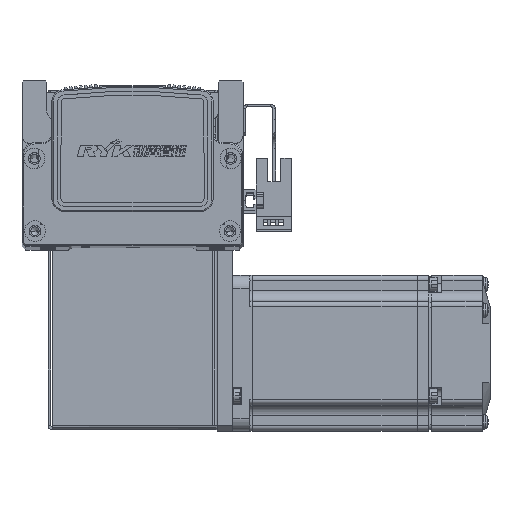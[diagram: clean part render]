
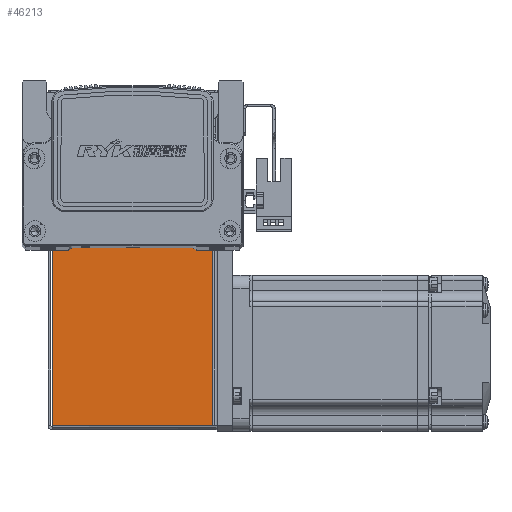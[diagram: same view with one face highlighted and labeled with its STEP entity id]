
A CAD part, top view. The second image highlights one B-rep face of the part: STEP entity #46213.
In plain terms, the highlighted planar face has unit normal (0, 0, 1).
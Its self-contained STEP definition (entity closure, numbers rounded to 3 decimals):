
#2452 = ORIENTED_EDGE ( 'NONE', *, *, #71392, .F. ) ;
#2458 = ORIENTED_EDGE ( 'NONE', *, *, #71367, .T. ) ;
#2492 = ORIENTED_EDGE ( 'NONE', *, *, #71385, .T. ) ;
#2494 = ORIENTED_EDGE ( 'NONE', *, *, #71430, .F. ) ;
#16728 = VERTEX_POINT ( 'NONE', #60256 ) ;
#16788 = VERTEX_POINT ( 'NONE', #60355 ) ;
#16891 = VERTEX_POINT ( 'NONE', #60397 ) ;
#16914 = VERTEX_POINT ( 'NONE', #60385 ) ;
#17542 = AXIS2_PLACEMENT_3D ( 'NONE', #31143, #31117, #31118 ) ;
#31117 = DIRECTION ( 'NONE',  ( 0., 0., -1. ) ) ;
#31118 = DIRECTION ( 'NONE',  ( -1., 0., 0. ) ) ;
#31122 = PLANE ( 'NONE',  #17542 ) ;
#31143 = CARTESIAN_POINT ( 'NONE',  ( 0., 0., 35. ) ) ;
#42981 = DIRECTION ( 'NONE',  ( 0., 1., 0. ) ) ;
#42995 = CARTESIAN_POINT ( 'NONE',  ( 30.763, 0.737, 35. ) ) ;
#43004 = DIRECTION ( 'NONE',  ( -1., 0., 0. ) ) ;
#43008 = DIRECTION ( 'NONE',  ( -1., 0., 0. ) ) ;
#43013 = CARTESIAN_POINT ( 'NONE',  ( 0., 72.5, 35. ) ) ;
#43019 = CARTESIAN_POINT ( 'NONE',  ( -32.5, 0.737, 35. ) ) ;
#43153 = CARTESIAN_POINT ( 'NONE',  ( -30.793, 0., 35. ) ) ;
#43154 = DIRECTION ( 'NONE',  ( 0., 1., 0. ) ) ;
#46213 = ADVANCED_FACE ( 'NONE', ( #50625 ), #31122, .F. ) ;
#47017 = LINE ( 'NONE', #43153, #47036 ) ;
#47036 = VECTOR ( 'NONE', #43154, 1000. ) ;
#48579 = LINE ( 'NONE', #42995, #48596 ) ;
#48596 = VECTOR ( 'NONE', #42981, 1000. ) ;
#48635 = LINE ( 'NONE', #43013, #48642 ) ;
#48642 = VECTOR ( 'NONE', #43004, 1000. ) ;
#48666 = VECTOR ( 'NONE', #43008, 1000. ) ;
#48678 = LINE ( 'NONE', #43019, #48666 ) ;
#50625 = FACE_OUTER_BOUND ( 'NONE', #70353, .T. ) ;
#60256 = CARTESIAN_POINT ( 'NONE',  ( 30.763, 0.737, 35. ) ) ;
#60355 = CARTESIAN_POINT ( 'NONE',  ( 30.763, 72.5, 35. ) ) ;
#60385 = CARTESIAN_POINT ( 'NONE',  ( -30.793, 72.5, 35. ) ) ;
#60397 = CARTESIAN_POINT ( 'NONE',  ( -30.793, 0.737, 35. ) ) ;
#70353 = EDGE_LOOP ( 'NONE', ( #2458, #2492, #2494, #2452 ) ) ;
#71367 = EDGE_CURVE ( 'NONE', #16728, #16788, #48579, .T. ) ;
#71385 = EDGE_CURVE ( 'NONE', #16788, #16914, #48635, .T. ) ;
#71392 = EDGE_CURVE ( 'NONE', #16728, #16891, #48678, .T. ) ;
#71430 = EDGE_CURVE ( 'NONE', #16891, #16914, #47017, .T. ) ;
